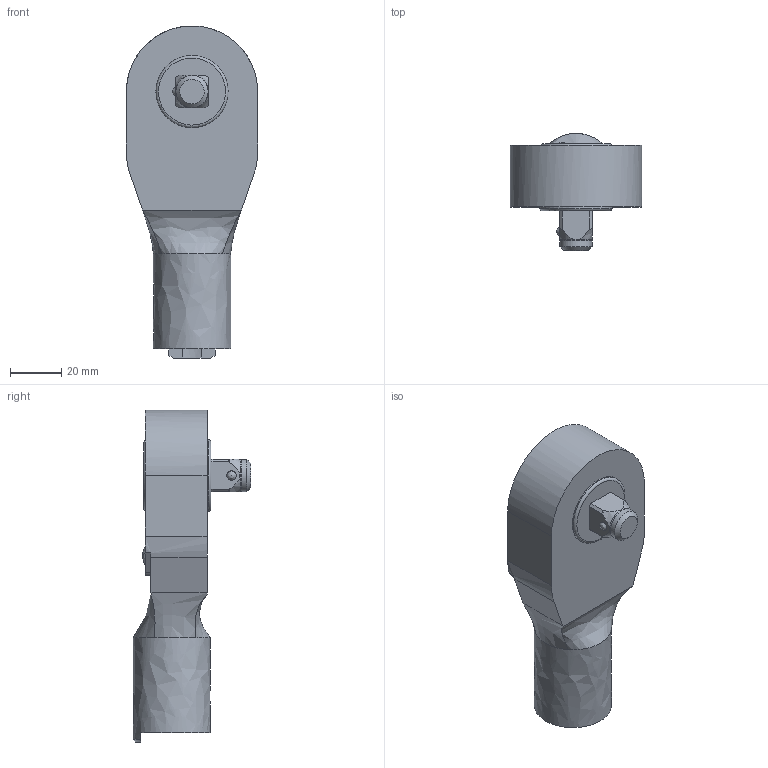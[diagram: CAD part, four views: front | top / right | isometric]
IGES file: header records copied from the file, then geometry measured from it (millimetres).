
Global section: file name: QH22D-1／2,2; native system: 2HAutodesk Inventor 2016; preprocessor: unknown; author: Q600; date: 20151016.165430; units: millimetre
Bounding box: 51 x 45.7 x 128.98 mm (x, y, z)
Volume: 107827.3 mm3; surface area: 19374.9 mm2
Topology: 1 solids, 1 shells, 85 faces, 249 edges, 166 vertices
Faces by surface type: bspline 85
